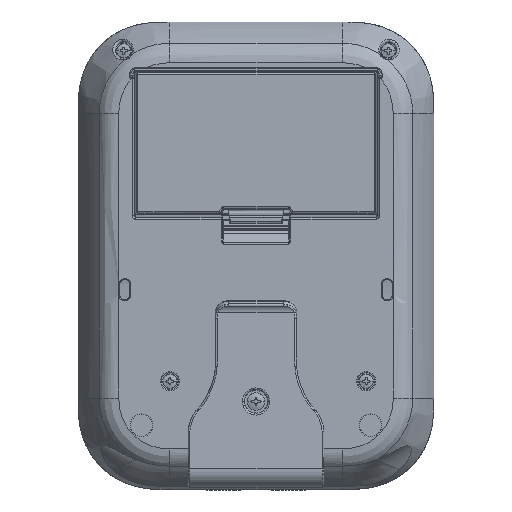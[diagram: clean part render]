
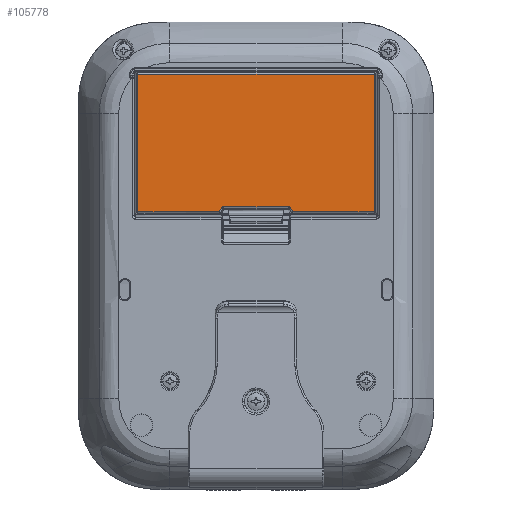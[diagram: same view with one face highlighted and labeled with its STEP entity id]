
A CAD part, front view. The second image highlights one B-rep face of the part: STEP entity #105778.
In plain terms, the highlighted planar face has unit normal (0, -1, 0).
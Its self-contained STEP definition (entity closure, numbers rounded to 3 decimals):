
#102618=DIRECTION('',(1.,0.,0.));
#102619=VECTOR('',#102618,23.989);
#102620=CARTESIAN_POINT('',(-34.837,-45.65,59.063));
#102621=LINE('',#102620,#102619);
#102622=DIRECTION('',(0.,0.,-1.));
#102623=VECTOR('',#102622,40.475);
#102624=CARTESIAN_POINT('',(-34.837,-45.65,99.537));
#102625=LINE('',#102624,#102623);
#102626=DIRECTION('',(-1.,0.,0.));
#102627=VECTOR('',#102626,69.675);
#102628=CARTESIAN_POINT('',(34.837,-45.65,99.537));
#102629=LINE('',#102628,#102627);
#102630=DIRECTION('',(0.,0.,1.));
#102631=VECTOR('',#102630,40.475);
#102632=CARTESIAN_POINT('',(34.837,-45.65,59.063));
#102633=LINE('',#102632,#102631);
#102634=DIRECTION('',(1.,0.,0.));
#102635=VECTOR('',#102634,23.989);
#102636=CARTESIAN_POINT('',(10.848,-45.65,
59.063));
#102637=LINE('',#102636,#102635);
#102638=DIRECTION('',(-0.501,0.,0.866));
#102639=VECTOR('',#102638,1.156);
#102640=CARTESIAN_POINT('',(10.848,-45.65,
59.063));
#102641=LINE('',#102640,#102639);
#102642=DIRECTION('',(1.,0.,0.));
#102643=VECTOR('',#102642,19.156);
#102644=CARTESIAN_POINT('',(-9.578,-45.65,60.463));
#102645=LINE('',#102644,#102643);
#102646=DIRECTION('',(-0.501,0.,
-0.866));
#102647=VECTOR('',#102646,1.156);
#102648=CARTESIAN_POINT('',(-10.27,-45.65,60.064));
#102649=LINE('',#102648,#102647);
#102999=CARTESIAN_POINT('',(-10.848,-45.65,
59.063));
#104183=CARTESIAN_POINT('',(10.848,-45.65,
59.063));
#104368=CARTESIAN_POINT('',(-10.27,-45.65,60.064));
#104369=CARTESIAN_POINT('',(-10.256,-45.65,
60.087));
#104370=CARTESIAN_POINT('',(-10.226,-45.65,
60.134));
#104371=CARTESIAN_POINT('',(-10.173,-45.65,
60.199));
#104372=CARTESIAN_POINT('',(-10.113,-45.65,
60.259));
#104373=CARTESIAN_POINT('',(-10.048,-45.65,
60.312));
#104374=CARTESIAN_POINT('',(-9.978,-45.65,
60.357));
#104375=CARTESIAN_POINT('',(-9.903,-45.65,
60.395));
#104376=CARTESIAN_POINT('',(-9.825,-45.65,
60.425));
#104377=CARTESIAN_POINT('',(-9.743,-45.65,
60.447));
#104378=CARTESIAN_POINT('',(-9.661,-45.65,
60.46));
#104379=CARTESIAN_POINT('',(-9.605,-45.65,
60.463));
#104380=CARTESIAN_POINT('',(-9.578,-45.65,60.463));
#104440=CARTESIAN_POINT('',(9.578,-45.65,60.463));
#104441=CARTESIAN_POINT('',(9.605,-45.65,
60.463));
#104442=CARTESIAN_POINT('',(9.66,-45.65,
60.46));
#104443=CARTESIAN_POINT('',(9.743,-45.65,
60.447));
#104444=CARTESIAN_POINT('',(9.824,-45.65,
60.425));
#104445=CARTESIAN_POINT('',(9.903,-45.65,
60.395));
#104446=CARTESIAN_POINT('',(9.977,-45.65,
60.357));
#104447=CARTESIAN_POINT('',(10.047,-45.65,
60.312));
#104448=CARTESIAN_POINT('',(10.113,-45.65,
60.259));
#104449=CARTESIAN_POINT('',(10.172,-45.65,
60.2));
#104450=CARTESIAN_POINT('',(10.225,-45.65,
60.135));
#104451=CARTESIAN_POINT('',(10.255,-45.65,
60.088));
#104452=CARTESIAN_POINT('',(10.27,-45.65,60.064));
#105098=CARTESIAN_POINT('',(34.837,-45.65,99.537));
#105099=CARTESIAN_POINT('',(-34.837,-45.65,99.537));
#105100=VERTEX_POINT('',#105098);
#105101=VERTEX_POINT('',#105099);
#105104=CARTESIAN_POINT('',(34.837,-45.65,59.063));
#105105=VERTEX_POINT('',#105104);
#105114=CARTESIAN_POINT('',(-34.837,-45.65,59.063));
#105115=VERTEX_POINT('',#105114);
#105415=VERTEX_POINT('',#102999);
#105417=CARTESIAN_POINT('',(-9.578,-45.65,60.463));
#105419=VERTEX_POINT('',#105417);
#105421=CARTESIAN_POINT('',(-10.27,-45.65,60.064));
#105423=VERTEX_POINT('',#105421);
#105438=VERTEX_POINT('',#104183);
#105443=CARTESIAN_POINT('',(10.27,-45.65,60.064));
#105445=VERTEX_POINT('',#105443);
#105447=CARTESIAN_POINT('',(9.578,-45.65,60.463));
#105449=VERTEX_POINT('',#105447);
#105751=CARTESIAN_POINT('',(-35.6,-45.65,58.3));
#105752=DIRECTION('',(0.,1.,0.));
#105753=DIRECTION('',(1.,0.,0.));
#105754=AXIS2_PLACEMENT_3D('',#105751,#105752,#105753);
#105755=PLANE('',#105754);
#105757=ORIENTED_EDGE('',*,*,#105756,.F.);
#105759=ORIENTED_EDGE('',*,*,#105758,.F.);
#105761=ORIENTED_EDGE('',*,*,#105760,.F.);
#105763=ORIENTED_EDGE('',*,*,#105762,.F.);
#105765=ORIENTED_EDGE('',*,*,#105764,.F.);
#105767=ORIENTED_EDGE('',*,*,#105766,.T.);
#105769=ORIENTED_EDGE('',*,*,#105768,.F.);
#105771=ORIENTED_EDGE('',*,*,#105770,.F.);
#105773=ORIENTED_EDGE('',*,*,#105772,.F.);
#105775=ORIENTED_EDGE('',*,*,#105774,.T.);
#105776=EDGE_LOOP('',(#105757,#105759,#105761,#105763,#105765,#105767,#105769,
#105771,#105773,#105775));
#105777=FACE_OUTER_BOUND('',#105776,.F.);
#104381=B_SPLINE_CURVE_WITH_KNOTS('',3,(#104368,#104369,#104370,#104371,#104372,
#104373,#104374,#104375,#104376,#104377,#104378,#104379,#104380),.UNSPECIFIED.,
.F.,.F.,(4,1,1,1,1,1,1,1,1,1,4),(0.,0.1,0.2,0.3,0.4,0.5,0.6,0.7,
0.8,0.9,1.),.UNSPECIFIED.);
#104453=B_SPLINE_CURVE_WITH_KNOTS('',3,(#104440,#104441,#104442,#104443,#104444,
#104445,#104446,#104447,#104448,#104449,#104450,#104451,#104452),.UNSPECIFIED.,
.F.,.F.,(4,1,1,1,1,1,1,1,1,1,4),(0.,0.1,0.2,0.3,0.4,0.5,0.6,0.7,
0.8,0.9,1.),.UNSPECIFIED.);
#105756=EDGE_CURVE('',#105115,#105415,#102621,.T.);
#105758=EDGE_CURVE('',#105101,#105115,#102625,.T.);
#105760=EDGE_CURVE('',#105100,#105101,#102629,.T.);
#105762=EDGE_CURVE('',#105105,#105100,#102633,.T.);
#105764=EDGE_CURVE('',#105438,#105105,#102637,.T.);
#105766=EDGE_CURVE('',#105438,#105445,#102641,.T.);
#105768=EDGE_CURVE('',#105449,#105445,#104453,.T.);
#105770=EDGE_CURVE('',#105419,#105449,#102645,.T.);
#105772=EDGE_CURVE('',#105423,#105419,#104381,.T.);
#105774=EDGE_CURVE('',#105423,#105415,#102649,.T.);
#105778=ADVANCED_FACE('',(#105777),#105755,.F.);
